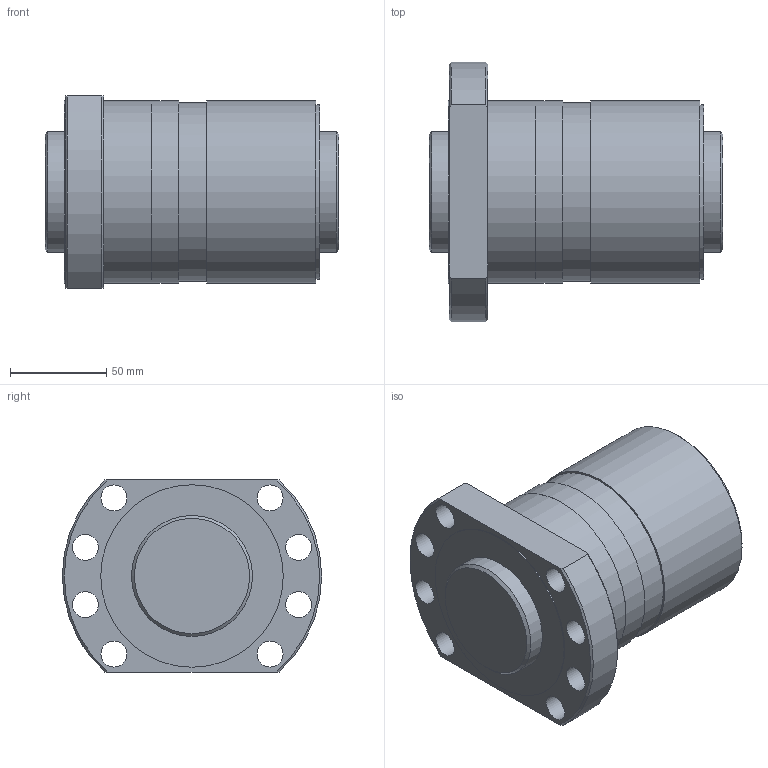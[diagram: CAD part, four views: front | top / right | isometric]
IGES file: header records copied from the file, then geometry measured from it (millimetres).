
Start section: Data from Parasolid IGES Translator 26.0.171, Copyright(c) 2006 Siemens PLM Software. All Rights Reserved.
Global section: file name: SDAN6312VX-4G0+153LC0(0G000).igs; native system: By Siemens PLM Incorporated; preprocessor: XPlus GENERIC/IGES 26.0.171; author: Noname; organization: Noname; date: 20240704.102252; units: millimetre
Bounding box: 153 x 135 x 100 mm (x, y, z)
Surface area: 128356.4 mm2 (no closed solid volume)
Topology: 0 solids, 0 shells, 41 faces, 198 edges, 175 vertices
Faces by surface type: revolution 28, extrusion 13
